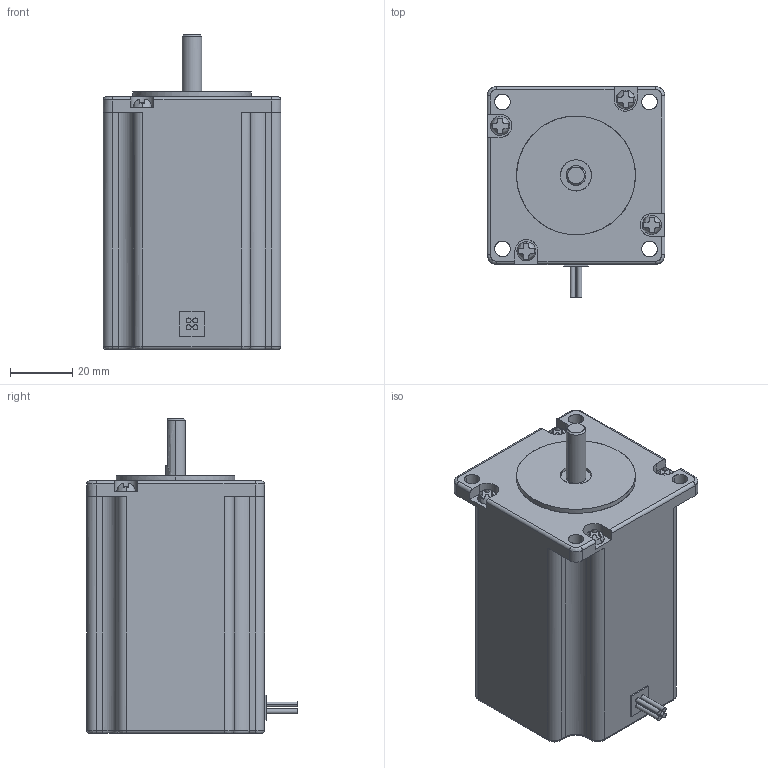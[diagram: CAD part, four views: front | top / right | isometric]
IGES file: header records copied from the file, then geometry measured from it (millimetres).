
Global section: file name: C:\DOCUME~1\PC001\BM-56L-C.igs; preprocessor: I-DEAS 3D IGES Translator 12; date: 20100107.192311; units: millimetre
Bounding box: 57 x 67.5 x 101 mm (x, y, z)
Surface area: 24645.1 mm2 (no closed solid volume)
Topology: 0 solids, 0 shells, 200 faces, 1090 edges, 1090 vertices
Faces by surface type: bspline 200
